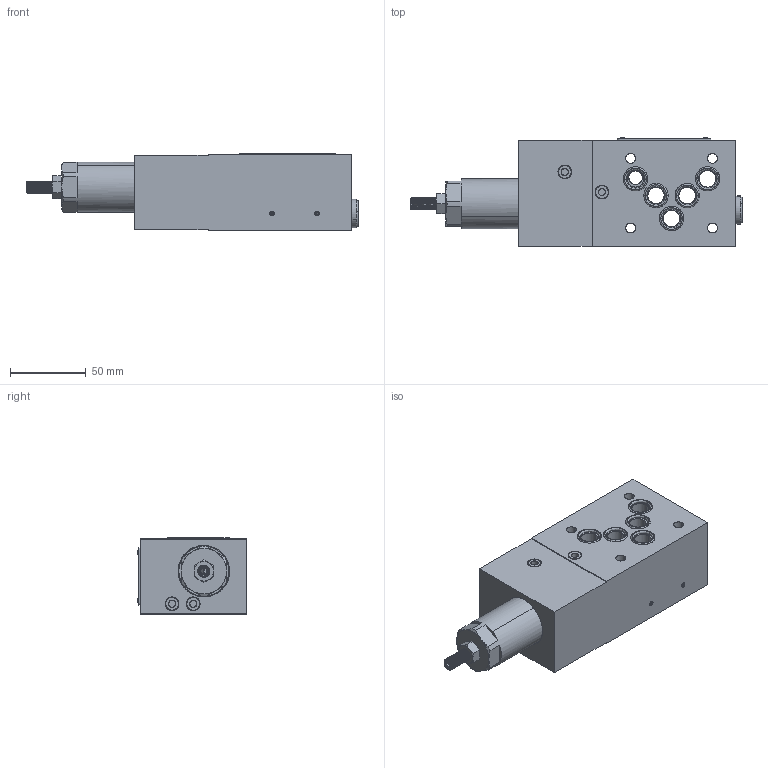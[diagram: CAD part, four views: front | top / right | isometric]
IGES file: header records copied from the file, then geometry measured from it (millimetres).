
Start section: SolidWorks IGES file using analytic representation for surfaces
Global section: file name: C:\Users\pc-te25\Desktop\ASSIEME 376-4-A-12-05.IGS; native system: SolidWorks 2018; preprocessor: SolidWorks 2018; author: pc-te25; date: 191204.095929; units: millimetre
Bounding box: 219.21 x 71.66 x 50.88 mm (x, y, z)
Surface area: 69047.4 mm2 (no closed solid volume)
Topology: 0 solids, 0 shells, 781 faces, 13654 edges, 13650 vertices
Faces by surface type: bspline 470, revolution 311
